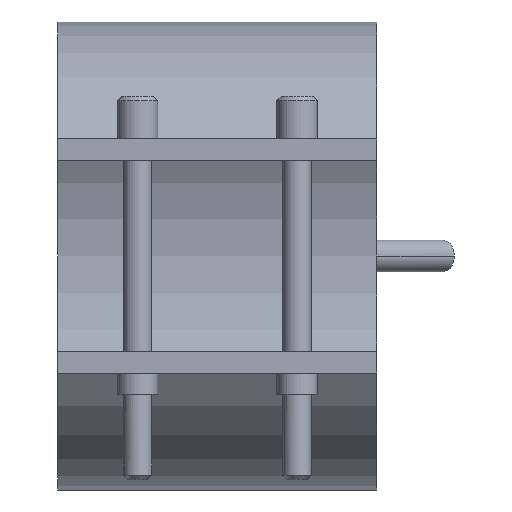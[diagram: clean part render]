
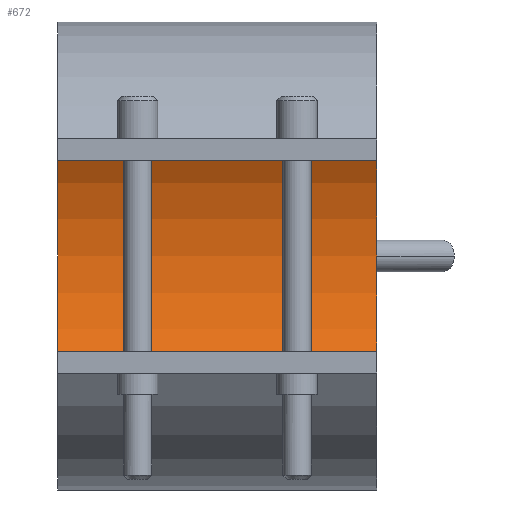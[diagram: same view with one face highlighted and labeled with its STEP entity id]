
A CAD part, front view. The second image highlights one B-rep face of the part: STEP entity #672.
In plain terms, the highlighted cylindrical face has radius 40 mm (diameter 80 mm), a partial arc.
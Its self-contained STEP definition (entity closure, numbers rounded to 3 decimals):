
#354=CARTESIAN_POINT('Vertex',(30.,0.,40.)) ;
#359=CARTESIAN_POINT('Axis2P3D Location',(30.,0.,0.)) ;
#363=CARTESIAN_POINT('Vertex',(30.,0.,-40.)) ;
#470=CARTESIAN_POINT('Vertex',(-30.,0.,-40.)) ;
#473=CARTESIAN_POINT('Axis2P3D Location',(-30.,0.,0.)) ;
#477=CARTESIAN_POINT('Vertex',(-30.,0.,40.)) ;
#644=CARTESIAN_POINT('Line Origine',(30.,0.,40.)) ;
#656=CARTESIAN_POINT('Axis2P3D Location',(30.,0.,0.)) ;
#661=CARTESIAN_POINT('Line Origine',(30.,0.,-40.)) ;
#360=DIRECTION('Axis2P3D Direction',(1.,0.,0.)) ;
#474=DIRECTION('Axis2P3D Direction',(1.,0.,0.)) ;
#645=DIRECTION('Vector Direction',(1.,0.,0.)) ;
#657=DIRECTION('Axis2P3D Direction',(1.,0.,-0.)) ;
#658=DIRECTION('Axis2P3D XDirection',(0.,0.,-1.)) ;
#662=DIRECTION('Vector Direction',(1.,0.,0.)) ;
#361=AXIS2_PLACEMENT_3D('Circle Axis2P3D',#359,#360,$) ;
#475=AXIS2_PLACEMENT_3D('Circle Axis2P3D',#473,#474,$) ;
#659=AXIS2_PLACEMENT_3D('Cylinder Axis2P3D',#656,#657,#658) ;
#667=ORIENTED_EDGE('',*,*,#365,.T.) ;
#668=ORIENTED_EDGE('',*,*,#648,.T.) ;
#669=ORIENTED_EDGE('',*,*,#479,.F.) ;
#670=ORIENTED_EDGE('',*,*,#665,.T.) ;
#646=VECTOR('Line Direction',#645,1.) ;
#663=VECTOR('Line Direction',#662,1.) ;
#672=ADVANCED_FACE('29080060',(#671),#660,.F.) ;
#362=CIRCLE('generated circle',#361,40.) ;
#476=CIRCLE('generated circle',#475,40.) ;
#660=CYLINDRICAL_SURFACE('generated cylinder',#659,40.) ;
#365=EDGE_CURVE('',#364,#355,#362,.T.) ;
#479=EDGE_CURVE('',#471,#478,#476,.T.) ;
#648=EDGE_CURVE('',#355,#478,#647,.F.) ;
#665=EDGE_CURVE('',#471,#364,#664,.T.) ;
#666=EDGE_LOOP('',(#667,#668,#669,#670)) ;
#671=FACE_OUTER_BOUND('',#666,.T.) ;
#647=LINE('Line',#644,#646) ;
#664=LINE('Line',#661,#663) ;
#355=VERTEX_POINT('',#354) ;
#364=VERTEX_POINT('',#363) ;
#471=VERTEX_POINT('',#470) ;
#478=VERTEX_POINT('',#477) ;
